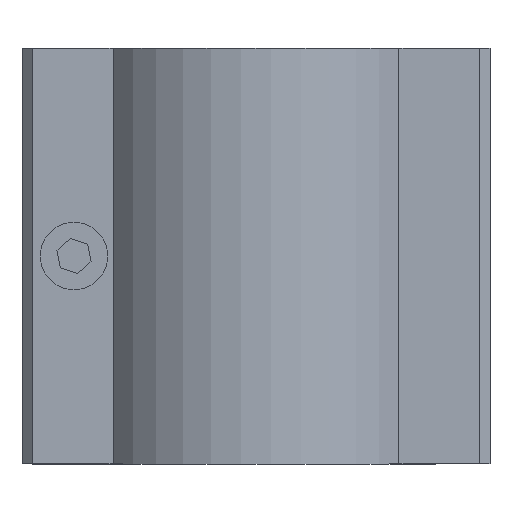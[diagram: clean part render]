
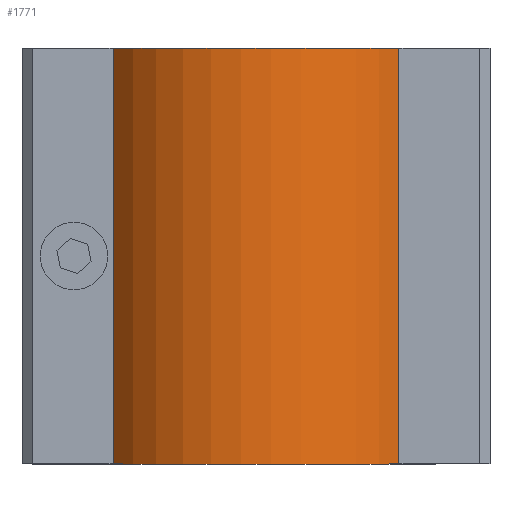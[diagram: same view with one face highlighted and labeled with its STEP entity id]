
A CAD part, front view. The second image highlights one B-rep face of the part: STEP entity #1771.
In plain terms, the highlighted cylindrical face has radius 34 mm (diameter 68 mm), a partial arc.
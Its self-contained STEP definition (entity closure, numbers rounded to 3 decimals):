
#1098=CARTESIAN_POINT('',(-28.204,-15.802,75.0));
#1099=VERTEX_POINT('',#1098);
#1106=CARTESIAN_POINT('',(26.787,-15.802,75.0));
#1107=VERTEX_POINT('',#1106);
#1108=CARTESIAN_POINT('',(-0.709,4.198,75.0));
#1109=DIRECTION('',(0.0,0.0,-1.));
#1110=DIRECTION('',(0.809,0.588,0.0));
#1111=AXIS2_PLACEMENT_3D('',#1108,#1109,#1110);
#1112=CIRCLE('',#1111,34.0);
#1113=EDGE_CURVE('',#1107,#1099,#1112,.T.);
#1666=CARTESIAN_POINT('',(26.787,-15.802,-5.));
#1667=VERTEX_POINT('',#1666);
#1674=CARTESIAN_POINT('',(-28.204,-15.802,-5.));
#1675=VERTEX_POINT('',#1674);
#1676=CARTESIAN_POINT('',(-0.709,4.198,-5.0));
#1677=DIRECTION('',(0.0,0.0,1.));
#1678=DIRECTION('',(0.809,0.588,0.0));
#1679=AXIS2_PLACEMENT_3D('',#1676,#1677,#1678);
#1680=CIRCLE('',#1679,34.0);
#1681=EDGE_CURVE('',#1675,#1667,#1680,.T.);
#1744=CARTESIAN_POINT('',(26.787,-15.802,75.0));
#1745=DIRECTION('',(0.0,0.0,-1.0));
#1746=VECTOR('',#1745,80.0);
#1747=LINE('',#1744,#1746);
#1748=EDGE_CURVE('',#1107,#1667,#1747,.T.);
#1755=CARTESIAN_POINT('',(-0.709,4.198,35.0));
#1756=DIRECTION('',(0.0,0.0,1.0));
#1757=DIRECTION('',(0.809,0.588,0.0));
#1758=AXIS2_PLACEMENT_3D('',#1755,#1756,#1757);
#1759=CYLINDRICAL_SURFACE('',#1758,34.0);
#1760=ORIENTED_EDGE('',*,*,#1113,.T.);
#1761=CARTESIAN_POINT('',(-28.204,-15.802,75.0));
#1762=DIRECTION('',(0.0,0.0,-1.0));
#1763=VECTOR('',#1762,80.0);
#1764=LINE('',#1761,#1763);
#1765=EDGE_CURVE('',#1099,#1675,#1764,.T.);
#1766=ORIENTED_EDGE('',*,*,#1765,.T.);
#1767=ORIENTED_EDGE('',*,*,#1681,.T.);
#1768=ORIENTED_EDGE('',*,*,#1748,.F.);
#1769=EDGE_LOOP('',(#1760,#1766,#1767,#1768));
#1770=FACE_OUTER_BOUND('',#1769,.T.);
#1771=ADVANCED_FACE('',(#1770),#1759,.T.);
